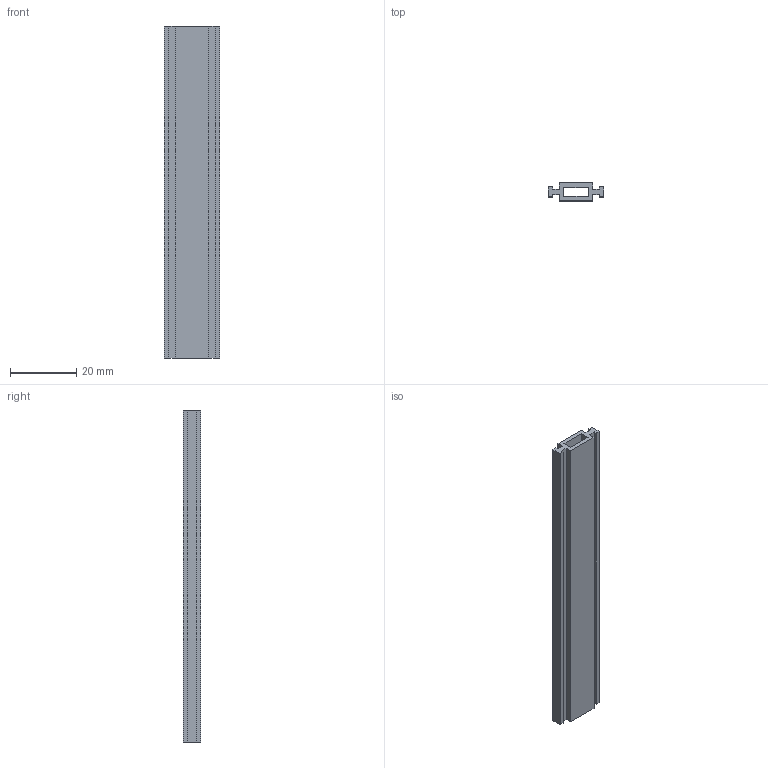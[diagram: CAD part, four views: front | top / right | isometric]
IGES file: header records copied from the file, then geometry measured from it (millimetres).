
Global section: file name: No Iges File Name specified; native system: Autodesk Inventor 2012; preprocessor: AutoDesk Inventor Iges Exporter R2012; author: anna.b; date: 20170316.095735; units: millimetre
Bounding box: 16.6 x 5.35 x 100 mm (x, y, z)
Volume: 4624.5 mm3; surface area: 7138.1 mm2
Topology: 1 solids, 1 shells, 26 faces, 72 edges, 48 vertices
Faces by surface type: plane 26
